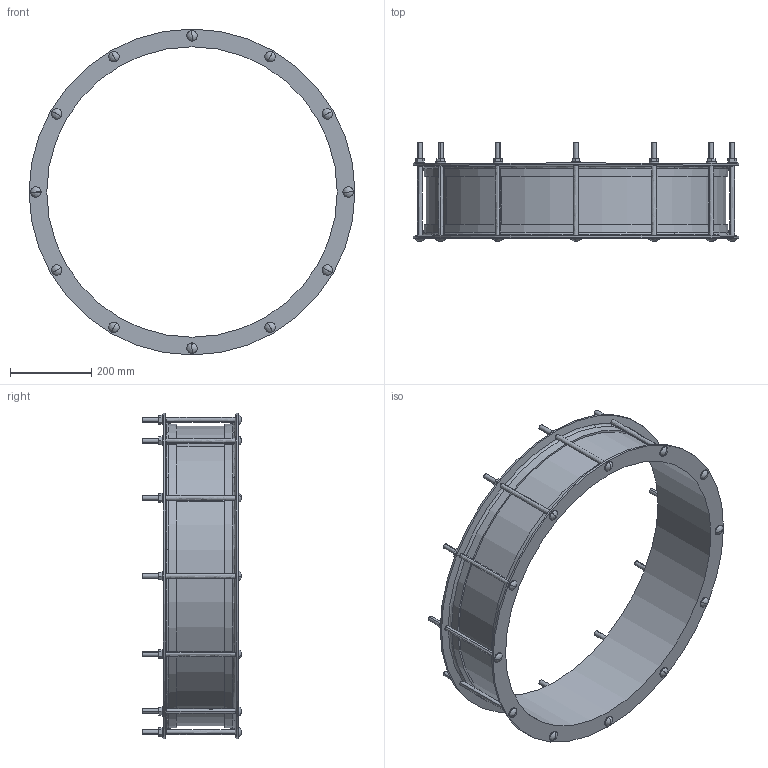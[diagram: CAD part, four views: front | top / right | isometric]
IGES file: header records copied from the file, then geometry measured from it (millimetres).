
Start section:  PTC IGES file: VJC_711.igs
Global section: file name: VJC_711.igs; native system: Creo Parametric by PTC Inc.; preprocessor: 2016130; author: mfairey; organization: Unknown; date: 20181206.110220; units: millimetre
Bounding box: 801.7 x 243.33 x 801.7 mm (x, y, z)
Surface area: 1283042.6 mm2 (no closed solid volume)
Topology: 0 solids, 0 shells, 252 faces, 1328 edges, 1304 vertices
Faces by surface type: revolution 140, bspline 112
